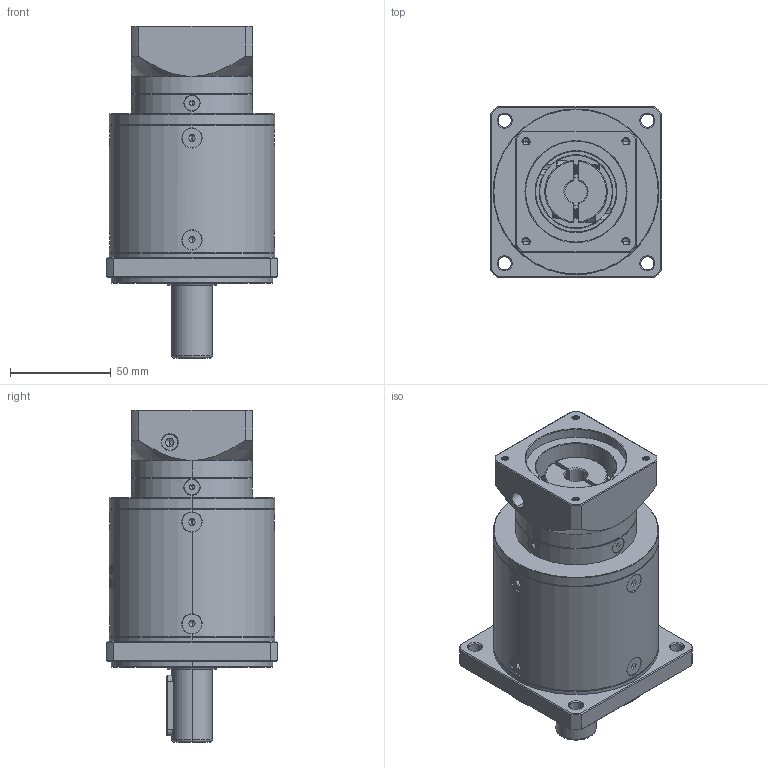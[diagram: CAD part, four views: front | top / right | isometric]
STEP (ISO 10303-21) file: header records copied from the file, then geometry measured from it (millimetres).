
FILE_DESCRIPTION (( 'STEP AP214' ), '1' );
FILE_NAME ('ZF080-D20-L3-P2-11-50-70-M4.step', '2023-08-19T06:53:54', ( '' ), ( '' ), 'SwSTEP 2.0', 'SolidWorks 2016', '' );
FILE_SCHEMA (( 'AUTOMOTIVE_DESIGN' ));
Length unit declared in the file: millimetre
Products named in the file (1): ZF080-D20-L3-P2-11-50-70-M4
Bounding box: 85 x 85 x 164.5 mm (x, y, z)
Volume: 572833.3 mm3; surface area: 72453.9 mm2
Topology: 18 solids, 18 shells, 2261 faces, 5954 edges, 3794 vertices
Faces by surface type: plane 1123, bspline 394, cylinder 375, cone 327, torus 42
Entity records: 116792 total; most frequent: CARTESIAN_POINT 40891, ORIENTED_EDGE 11832, DIRECTION 8907, EDGE_CURVE 5916, VERTEX_POINT 3794, LINE 3133, VECTOR 3133, AXIS2_PLACEMENT_3D 2887
